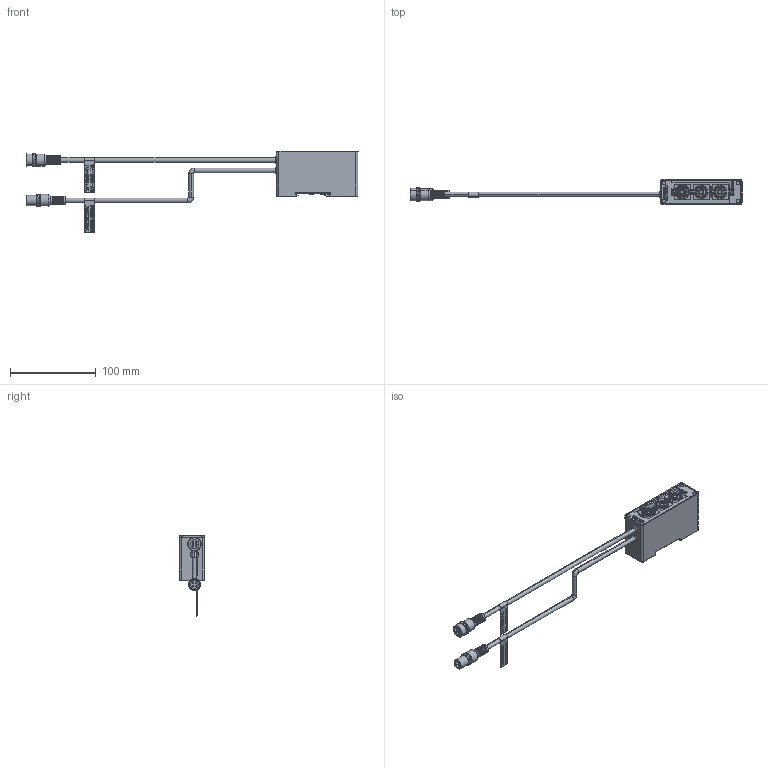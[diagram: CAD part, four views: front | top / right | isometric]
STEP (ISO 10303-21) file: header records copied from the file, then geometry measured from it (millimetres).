
FILE_DESCRIPTION (( 'STEP AP203' ), '1' );
FILE_NAME ('A09670A0000101A.STEP', '2018-07-30T10:32:12', ( '' ), ( '' ), 'SwSTEP 2.0', 'SolidWorks 2014', '' );
FILE_SCHEMA (( 'CONFIG_CONTROL_DESIGN' ));
Products named in the file (1): A09670A0000101A
Bounding box: 386.57 x 29.99 x 95.25 mm (x, y, z)
Volume: 159954.5 mm3; surface area: 43427.1 mm2
Topology: 1 solids, 8 shells, 3718 faces, 9783 edges, 6449 vertices
Faces by surface type: plane 1979, bspline 1199, cylinder 492, cone 32, torus 16
Entity records: 171409 total; most frequent: CARTESIAN_POINT 86778, ORIENTED_EDGE 19530, DIRECTION 13560, EDGE_CURVE 9765, VERTEX_POINT 6449, VECTOR 6236, LINE 6236, EDGE_LOOP 4120
